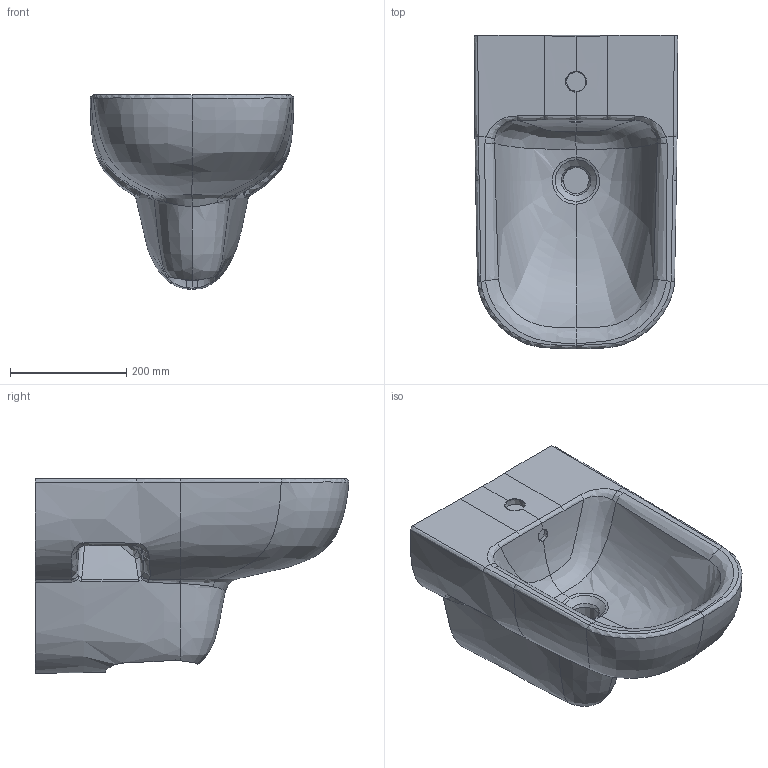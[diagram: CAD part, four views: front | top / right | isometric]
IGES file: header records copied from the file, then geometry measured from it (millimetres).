
Global section: file name: 500216; native system: Autodesk Inventor 2018; preprocessor: unknown; author: JANAN; date: 20200430.090609; units: millimetre
Bounding box: 349.97 x 539.6 x 335 mm (x, y, z)
Volume: 21235930.9 mm3; surface area: 783577.4 mm2
Topology: 1 solids, 1 shells, 147 faces, 357 edges, 215 vertices
Faces by surface type: bspline 147
